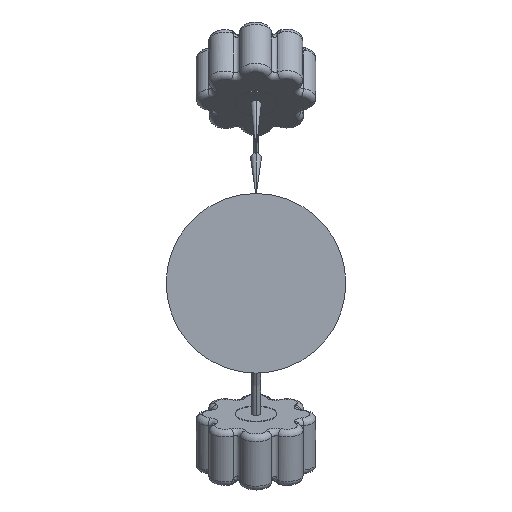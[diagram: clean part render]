
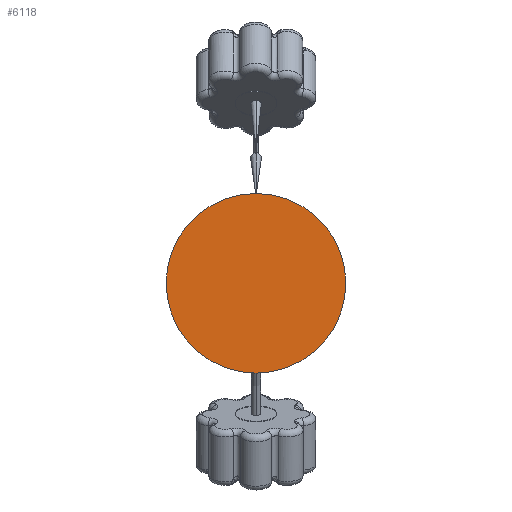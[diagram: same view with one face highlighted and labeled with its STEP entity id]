
A CAD part, front view. The second image highlights one B-rep face of the part: STEP entity #6118.
In plain terms, the highlighted planar face has unit normal (0, -1, 0).
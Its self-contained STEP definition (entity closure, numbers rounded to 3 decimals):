
#60 = CARTESIAN_POINT ( 'NONE',  ( 0., 0., 0. ) ) ;
#451 = CIRCLE ( 'NONE', #5455, 150. ) ;
#789 = DIRECTION ( 'NONE',  ( 0., 1., 0. ) ) ;
#1170 = DIRECTION ( 'NONE',  ( 0., 1., 0. ) ) ;
#1339 = DIRECTION ( 'NONE',  ( 0., 0., 1. ) ) ;
#1391 = DIRECTION ( 'NONE',  ( 0., 0., 1. ) ) ;
#1439 = CIRCLE ( 'NONE', #6881, 150. ) ;
#2731 = DIRECTION ( 'NONE',  ( 0., 1., 0. ) ) ;
#3105 = ORIENTED_EDGE ( 'NONE', *, *, #6756, .F. ) ;
#3171 = DIRECTION ( 'NONE',  ( 0., 0., 1. ) ) ;
#3339 = AXIS2_PLACEMENT_3D ( 'NONE', #7739, #1170, #3171 ) ;
#3759 = CARTESIAN_POINT ( 'NONE',  ( 0., 0., -150. ) ) ;
#5455 = AXIS2_PLACEMENT_3D ( 'NONE', #5895, #2731, #1391 ) ;
#5744 = ORIENTED_EDGE ( 'NONE', *, *, #6835, .F. ) ;
#5895 = CARTESIAN_POINT ( 'NONE',  ( 0., 0., 0. ) ) ;
#6118 = ADVANCED_FACE ( 'NONE', ( #7425 ), #7042, .F. ) ;
#6132 = CARTESIAN_POINT ( 'NONE',  ( 0., 0., 150. ) ) ;
#6223 = EDGE_LOOP ( 'NONE', ( #5744, #3105 ) ) ;
#6756 = EDGE_CURVE ( 'NONE', #8156, #7665, #451, .T. ) ;
#6835 = EDGE_CURVE ( 'NONE', #7665, #8156, #1439, .T. ) ;
#6881 = AXIS2_PLACEMENT_3D ( 'NONE', #60, #789, #1339 ) ;
#7042 = PLANE ( 'NONE',  #3339 ) ;
#7425 = FACE_OUTER_BOUND ( 'NONE', #6223, .T. ) ;
#7665 = VERTEX_POINT ( 'NONE', #3759 ) ;
#7739 = CARTESIAN_POINT ( 'NONE',  ( 0., 0., 0. ) ) ;
#8156 = VERTEX_POINT ( 'NONE', #6132 ) ;
